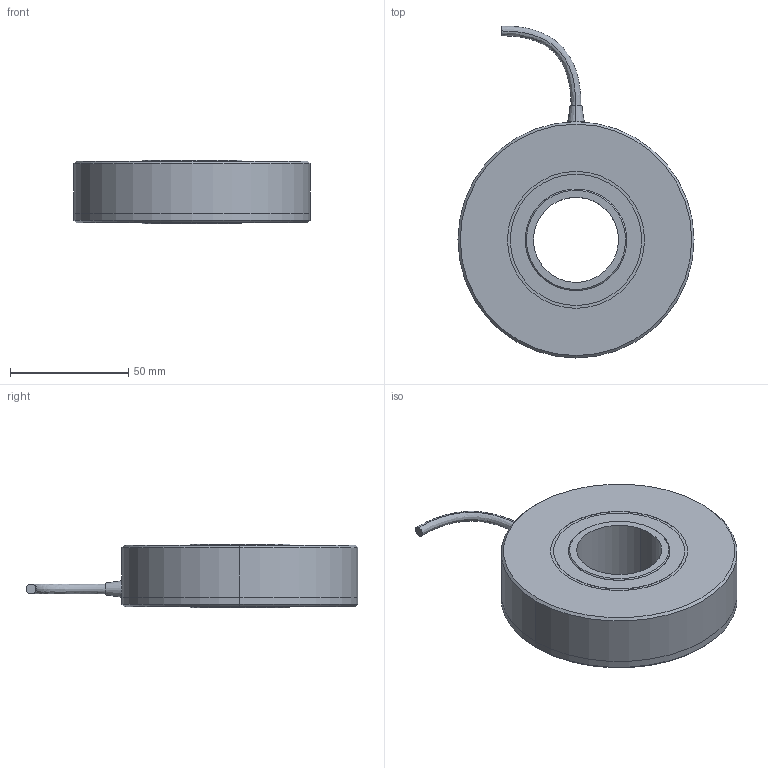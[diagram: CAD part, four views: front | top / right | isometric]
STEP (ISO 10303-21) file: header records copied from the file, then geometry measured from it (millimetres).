
FILE_DESCRIPTION (( 'STEP AP214' ), '1' );
FILE_NAME ('NH-10800_Assem1.STEP', '2024-06-18T01:35:20', ( '' ), ( '' ), 'SwSTEP 2.0', 'SolidWorks 2023', '' );
FILE_SCHEMA (( 'AUTOMOTIVE_DESIGN' ));
Length unit declared in the file: millimetre
Products named in the file (4): NH-10800_Part3; NH-10800_Part1; NH-10800_Part2; NH-10800_Assem1
Assembly tree (3 placements, depth 2):
  NH-10800_Assem1
    NH-10800_Part1
    NH-10800_Part2
    NH-10800_Part3
Bounding box: 100 x 140.59 x 27 mm (x, y, z)
Volume: 178167 mm3; surface area: 45798.5 mm2
Topology: 4 solids, 4 shells, 60 faces, 124 edges, 80 vertices
Faces by surface type: cylinder 32, plane 16, cone 10, bspline 2
Entity records: 1922 total; most frequent: CARTESIAN_POINT 426, DIRECTION 330, ORIENTED_EDGE 248, AXIS2_PLACEMENT_3D 144, EDGE_CURVE 124, CIRCLE 80, EDGE_LOOP 80, VERTEX_POINT 80
